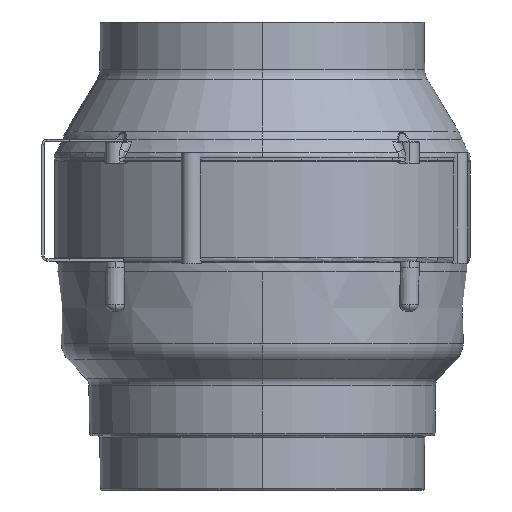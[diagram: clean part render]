
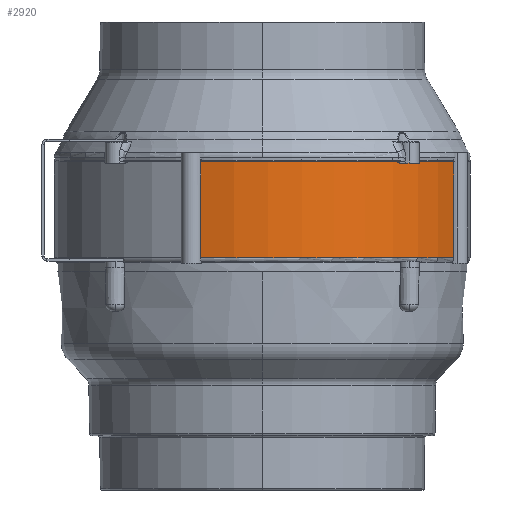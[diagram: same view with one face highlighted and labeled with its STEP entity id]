
A CAD part, left-side view. The second image highlights one B-rep face of the part: STEP entity #2920.
In plain terms, the highlighted cylindrical face has radius 95.5 mm (diameter 191 mm), a partial arc.
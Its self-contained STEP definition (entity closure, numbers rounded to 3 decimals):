
#1183 = CIRCLE ( 'NONE', #17692, 95.5 ) ;
#1238 = LINE ( 'NONE', #8276, #1240 ) ;
#1240 = VECTOR ( 'NONE', #8072, 1000. ) ;
#1243 = CIRCLE ( 'NONE', #17686, 95.5 ) ;
#2920 = ADVANCED_FACE ( 'NONE', ( #18493 ), #18507, .T. ) ;
#2996 = CARTESIAN_POINT ( 'NONE',  ( 0., 0., 0. ) ) ;
#3215 = DIRECTION ( 'NONE',  ( 0., 0., 1. ) ) ;
#3579 = DIRECTION ( 'NONE',  ( 1., 0., 0. ) ) ;
#3711 = CARTESIAN_POINT ( 'NONE',  ( -91.225, 28.255, 4.5 ) ) ;
#5358 = VERTEX_POINT ( 'NONE', #3711 ) ;
#5424 = CARTESIAN_POINT ( 'NONE',  ( -91.225, 28.255, 49. ) ) ;
#6380 = CARTESIAN_POINT ( 'NONE',  ( -36.994, -88.044, 4.5 ) ) ;
#6427 = CARTESIAN_POINT ( 'NONE',  ( -36.994, -88.044, 49. ) ) ;
#8072 = DIRECTION ( 'NONE',  ( 0., 0., -1. ) ) ;
#8129 = CARTESIAN_POINT ( 'NONE',  ( 0., 0., 49. ) ) ;
#8214 = DIRECTION ( 'NONE',  ( 1., 0., 0. ) ) ;
#8221 = DIRECTION ( 'NONE',  ( 0., 0., 1. ) ) ;
#8276 = CARTESIAN_POINT ( 'NONE',  ( -91.225, 28.255, 27.4 ) ) ;
#9616 = EDGE_CURVE ( 'NONE', #5358, #17366, #1183, .T. ) ;
#9668 = EDGE_CURVE ( 'NONE', #14921, #5358, #1238, .T. ) ;
#9673 = EDGE_CURVE ( 'NONE', #14921, #17319, #1243, .T. ) ;
#10082 = EDGE_CURVE ( 'NONE', #17366, #17319, #16731, .T. ) ;
#10832 = DIRECTION ( 'NONE',  ( 0., 0., 1. ) ) ;
#10833 = CARTESIAN_POINT ( 'NONE',  ( -36.994, -88.044, 27.4 ) ) ;
#11177 = AXIS2_PLACEMENT_3D ( 'NONE', #2996, #3215, #3579 ) ;
#11396 = DIRECTION ( 'NONE',  ( 1., 0., 0. ) ) ;
#11397 = DIRECTION ( 'NONE',  ( 0., 0., 1. ) ) ;
#11398 = CARTESIAN_POINT ( 'NONE',  ( 0., 0., 4.5 ) ) ;
#11494 = EDGE_LOOP ( 'NONE', ( #19703, #19704, #19705, #19706 ) ) ;
#14921 = VERTEX_POINT ( 'NONE', #5424 ) ;
#16731 = LINE ( 'NONE', #10833, #16741 ) ;
#16741 = VECTOR ( 'NONE', #10832, 1000. ) ;
#17319 = VERTEX_POINT ( 'NONE', #6427 ) ;
#17366 = VERTEX_POINT ( 'NONE', #6380 ) ;
#17686 = AXIS2_PLACEMENT_3D ( 'NONE', #8129, #8221, #8214 ) ;
#17692 = AXIS2_PLACEMENT_3D ( 'NONE', #11398, #11397, #11396 ) ;
#18493 = FACE_OUTER_BOUND ( 'NONE', #11494, .T. ) ;
#18507 = CYLINDRICAL_SURFACE ( 'NONE', #11177, 95.5 ) ;
#19703 = ORIENTED_EDGE ( 'NONE', *, *, #9616, .T. ) ;
#19704 = ORIENTED_EDGE ( 'NONE', *, *, #10082, .T. ) ;
#19705 = ORIENTED_EDGE ( 'NONE', *, *, #9673, .F. ) ;
#19706 = ORIENTED_EDGE ( 'NONE', *, *, #9668, .T. ) ;
